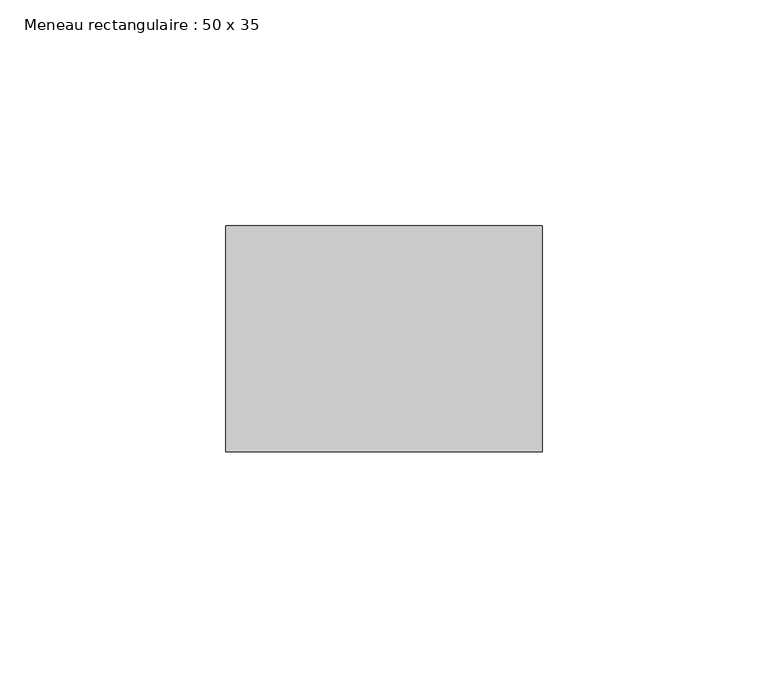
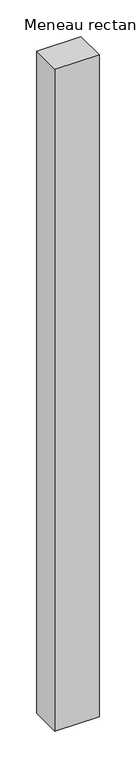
"""IFC4 building model written with IfcOpenShell, lengths in millimetres: member geometry, Meneau rectangulaire : 50 x 35."""

from ifc_helpers import new_model, si_unit, frame, origin, place, context, project, spatial, polyline, outline, extrude, source, transform, mapped, element, save


def meneau_rectangulaire_50_x_35_4cf23c54(model_context):
    return source(origin(), model_context, "Body", "SweptSolid", [
        extrude(outline(polyline([(35.0, 0.0), (35.0, -50.0), (-35.0, -50.0), (-35.0, 0.0), (35.0, 0.0)])), frame((0.0, 0.0, -1105.6798872), z_axis=(0.0, 0.0, 1.0), x_axis=(1.0, 0.0, 0.0)), (0.0, 0.0, 1.0), 1105.6798872),
    ])


if __name__ == "__main__":
    model = new_model("IFC4")
    model_context = context("Model", 3, world=origin())
    ifc_project = project(units=[si_unit("LENGTHUNIT", "METRE", prefix="MILLI")], contexts=[model_context])
    site = spatial("IfcSite", under=ifc_project)
    building = spatial("IfcBuilding", under=site)
    placement = place(None, origin())
    meneau_rectangulaire_50_x_35_shape = meneau_rectangulaire_50_x_35_4cf23c54(model_context)
    element("IfcMember", 1, ObjectType="Meneau rectangulaire : 50 x 35", at=placement, inside=building, context=model_context, shape_type="MappedRepresentation", body=[
        mapped(meneau_rectangulaire_50_x_35_shape, transform((0.0, 0.0, 0.0), x_axis=(1.0, 0.0, 0.0), y_axis=(0.0, 1.0, 0.0), z_axis=(0.0, 0.0, 1.0))),
    ])
    save(model, "model.ifc")
